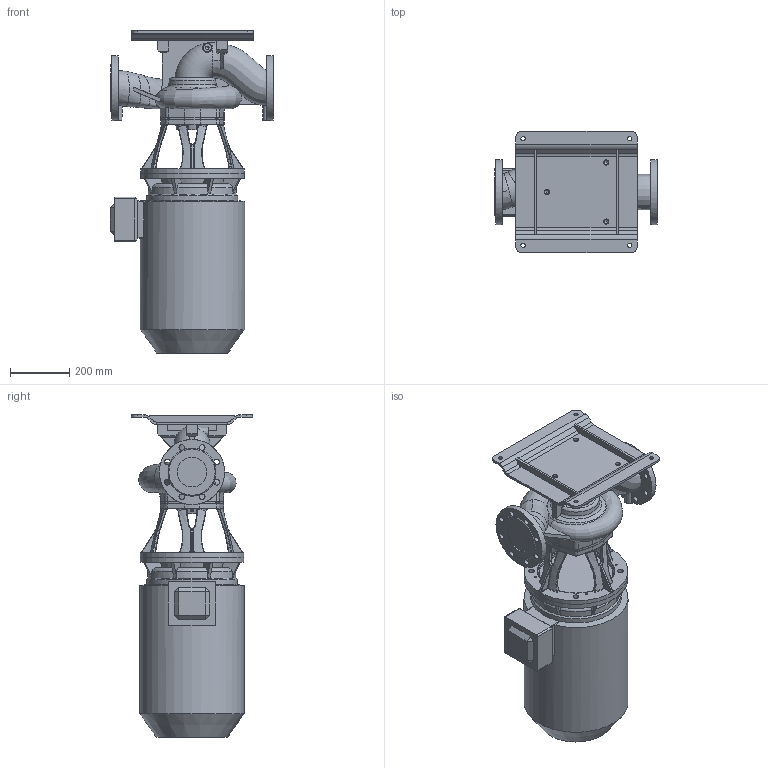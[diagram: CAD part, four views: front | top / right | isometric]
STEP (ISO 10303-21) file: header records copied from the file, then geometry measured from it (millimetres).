
FILE_DESCRIPTION (( 'STEP AP203' ), '1' );
FILE_NAME ('KI100-180_2_22kW.STEP', '2024-07-29T06:00:16', ( '' ), ( '' ), 'SwSTEP 2.0', 'SolidWorks 2023', '' );
FILE_SCHEMA (( 'CONFIG_CONTROL_DESIGN' ));
Length unit declared in the file: millimetre
Products named in the file (11): 230083; 440159_solid; 230494; 220508; 230084; 220511; KI100-180_2_22kW; 230490; 230085; 220427; 220426
Assembly tree (11 placements, depth 3):
  KI100-180_2_22kW
    440159_solid
    220511
      220508
    230494
      230490
    220427
      220426
    230085
      230083
      230084  x2
Bounding box: 553 x 408.67 x 1088.71 mm (x, y, z)
Volume: 75172927.4 mm3; surface area: 2411627.2 mm2
Topology: 7 solids, 7 shells, 1069 faces, 2779 edges, 1692 vertices
Faces by surface type: bspline 313, plane 308, cylinder 263, torus 87, cone 76, sphere 22
Full cylindrical faces by diameter (mm): 5 x4, 6 x3, 6.8 x4, 7 x4, 10.2 x4, 11.8 x4, 14 x7, 14.5 x4, 18 x3, 19 x24, 100 x2, 150 x1, 189 x1, 194 x1, 220 x2, 250 x1, 297 x1, 307 x1, 350 x2, 352 x1
Entity records: 81007 total; most frequent: CARTESIAN_POINT 57077, ORIENTED_EDGE 5160, DIRECTION 4151, EDGE_CURVE 2580, AXIS2_PLACEMENT_3D 1690, VERTEX_POINT 1620, EDGE_LOOP 1248, FACE_OUTER_BOUND 1135
